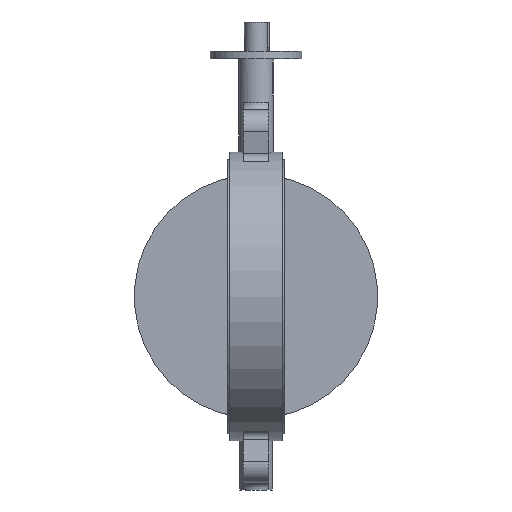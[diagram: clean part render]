
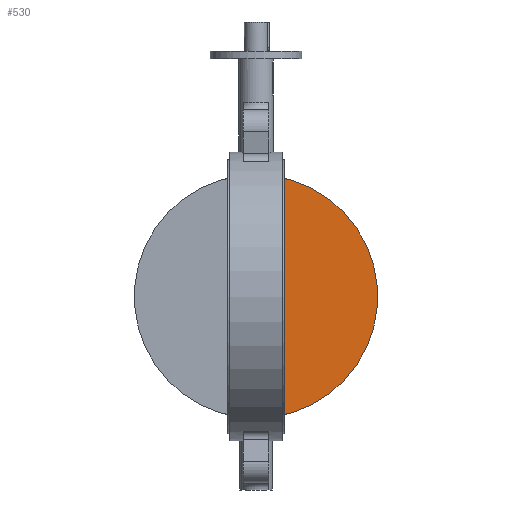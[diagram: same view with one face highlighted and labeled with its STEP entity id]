
A CAD part, front view. The second image highlights one B-rep face of the part: STEP entity #530.
In plain terms, the highlighted planar face has unit normal (0, -1, 0).
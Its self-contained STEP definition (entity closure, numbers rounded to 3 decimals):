
#530=ADVANCED_FACE('',(#1302),#1304,.T.);
#1302=FACE_BOUND('',#1303,.T.);
#1303=EDGE_LOOP('',(#1848,#1849));
#1304=PLANE('',#1305);
#1305=AXIS2_PLACEMENT_3D('',#1306,#1307,#1308);
#1306=CARTESIAN_POINT('',(0.,-2.5,0.));
#1307=DIRECTION('',(0.,-1.,0.));
#1308=DIRECTION('',(0.,0.,1.));
#1848=ORIENTED_EDGE('',*,*,#2096,.T.);
#1849=ORIENTED_EDGE('',*,*,#2133,.T.);
#2096=EDGE_CURVE('',#2382,#2379,#2383,.T.);
#2133=EDGE_CURVE('',#2379,#2382,#2434,.T.);
#2379=VERTEX_POINT('',#4040);
#2382=VERTEX_POINT('',#4070);
#2383=LINE('',#4071,#4072);
#2434=CIRCLE('',#4283,166.66);
#4040=CARTESIAN_POINT('',(22.361,-2.5,-165.153));
#4070=CARTESIAN_POINT('',(22.361,-2.5,165.153));
#4071=CARTESIAN_POINT('',(22.361,-2.5,165.153));
#4072=VECTOR('',#4073,1.);
#4073=DIRECTION('',(0.,0.,-1.));
#4283=AXIS2_PLACEMENT_3D('',#4284,#4285,#4286);
#4284=CARTESIAN_POINT('',(0.,-2.5,0.));
#4285=DIRECTION('',(0.,-1.,0.));
#4286=DIRECTION('',(0.134,0.,-0.991));
